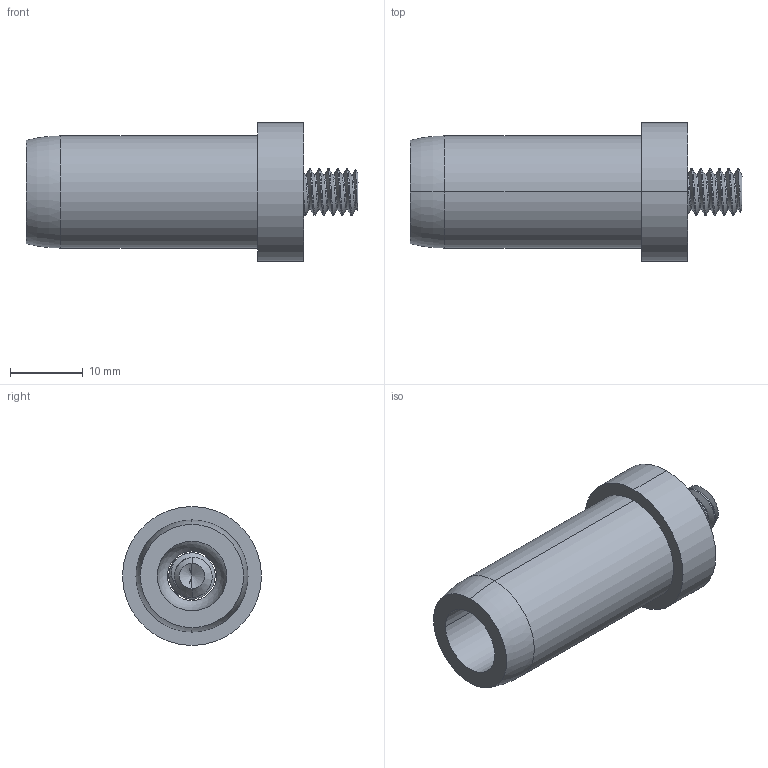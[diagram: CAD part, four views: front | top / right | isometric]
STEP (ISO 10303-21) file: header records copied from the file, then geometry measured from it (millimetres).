
FILE_DESCRIPTION (( 'STEP AP203' ), '1' );
FILE_NAME ('FDPCK-MC.625-S-ENDSTUD.step', '2019-09-11T18:36:51', ( 'ydmin' ), ( '' ), 'SwSTEP 2.0', 'SolidWorks 2017', '' );
FILE_SCHEMA (( 'CONFIG_CONTROL_DESIGN' ));
Length unit declared in the file: inch
Products named in the file (1): FDPCK-MC.625-S-ENDSTUD
Bounding box: 45.51 x 19.05 x 19.05 mm (x, y, z)
Volume: 5607 mm3; surface area: 3930.8 mm2
Topology: 2 solids, 2 shells, 69 faces, 172 edges, 105 vertices
Faces by surface type: cylinder 31, cone 16, plane 16, bspline 3, torus 2, sphere 1
Entity records: 4119 total; most frequent: CARTESIAN_POINT 2590, ORIENTED_EDGE 332, DIRECTION 275, EDGE_CURVE 166, AXIS2_PLACEMENT_3D 109, VERTEX_POINT 104, EDGE_LOOP 74, FACE_OUTER_BOUND 69
